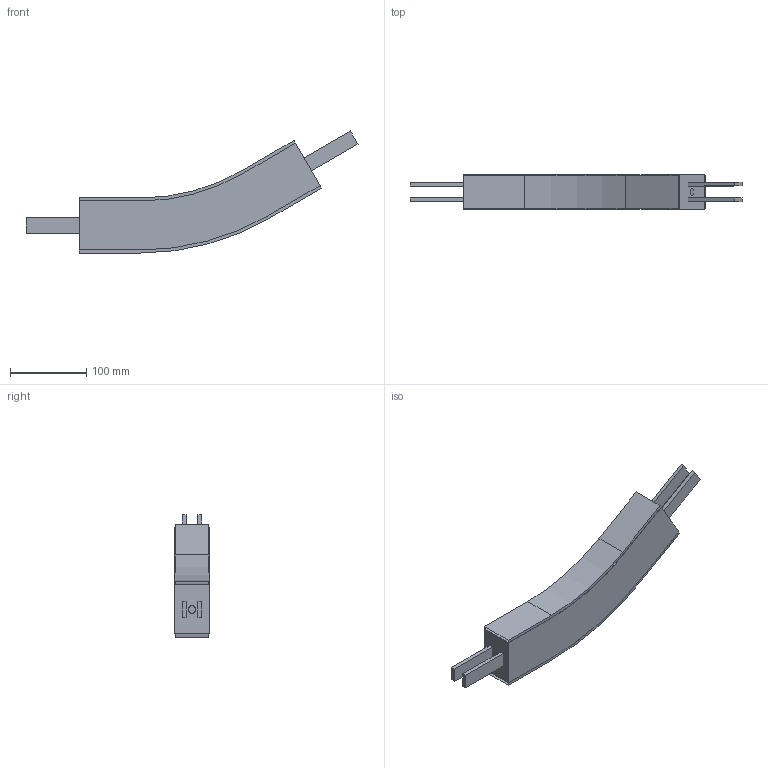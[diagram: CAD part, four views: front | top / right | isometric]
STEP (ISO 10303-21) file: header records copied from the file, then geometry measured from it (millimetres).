
FILE_DESCRIPTION(/* description */ ('Vertikaler Gleitbogen, 30°, R300'),/* implementation_level */ '2;1');
FILE_NAME(/* name */ 'T:\vdz0\Step Daten Website\modulflex FS-System\Vertikale Gleitbögen\FSBV30R300_53816.stp',/* time_stamp */ '2024-09-03T08:43:29+02:00',/* author */ ('lzb0'),/* organization */ ('modular automation GmbH'),/* preprocessor_version */ 'ST-DEVELOPER v18.1',/* originating_system */ 'Autodesk Inventor 2021',/* authorisation */ '');
FILE_SCHEMA (('AUTOMOTIVE_DESIGN { 1 0 10303 214 3 1 1 }'));
Length unit declared in the file: millimetre
Products named in the file (1): FSBV 30R300
Bounding box: 434.9 x 45 x 159.95 mm (x, y, z)
Volume: 972043.1 mm3; surface area: 165335.8 mm2
Topology: 5 solids, 9 shells, 52 faces, 126 edges, 84 vertices
Faces by surface type: plane 44, cylinder 8
Full cylindrical faces by diameter (mm): 10 x2
Entity records: 1598 total; most frequent: CARTESIAN_POINT 270, DIRECTION 250, ORIENTED_EDGE 232, EDGE_CURVE 126, LINE 110, VECTOR 110, VERTEX_POINT 84, AXIS2_PLACEMENT_3D 70
